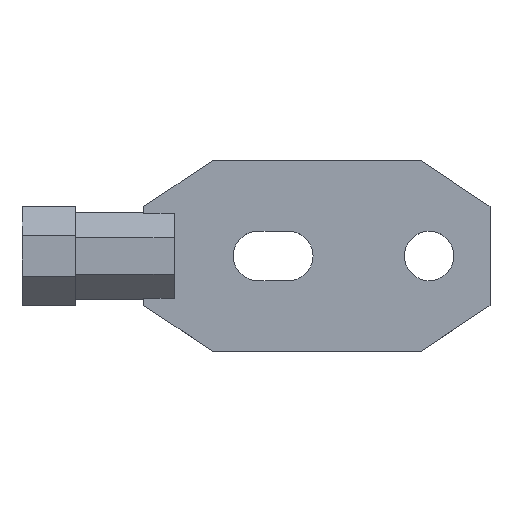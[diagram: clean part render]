
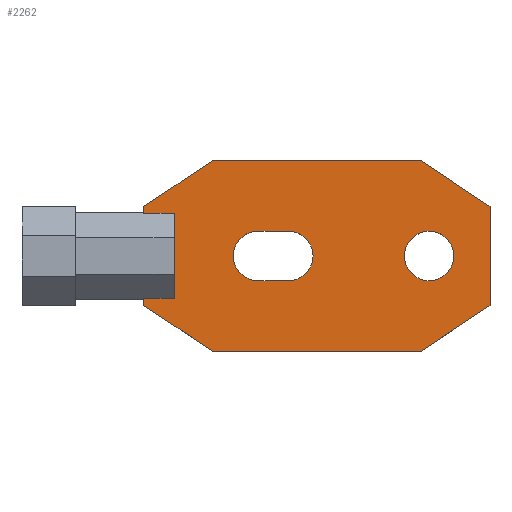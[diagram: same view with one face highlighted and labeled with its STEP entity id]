
A CAD part, top view. The second image highlights one B-rep face of the part: STEP entity #2262.
In plain terms, the highlighted planar face has unit normal (0, 0, 1) as drawn and (0, 1, 0) by its records, which use the part's own axes.
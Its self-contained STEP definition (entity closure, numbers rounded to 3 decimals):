
#1993=CARTESIAN_POINT('',(-75.,5.,0.));
#1994=DIRECTION('',(0.,-1.,0.));
#1995=DIRECTION('',(1.,0.,0.));
#1996=AXIS2_PLACEMENT_3D('',#1993,#1994,#1995);
#1998=CARTESIAN_POINT('',(-75.,5.,0.));
#1999=DIRECTION('',(0.,-1.,0.));
#2000=DIRECTION('',(-1.,0.,0.));
#2001=AXIS2_PLACEMENT_3D('',#1998,#1999,#2000);
#2003=CARTESIAN_POINT('',(-30.,5.,0.));
#2004=DIRECTION('',(0.,-1.,0.));
#2005=DIRECTION('',(0.,0.,-1.));
#2006=AXIS2_PLACEMENT_3D('',#2003,#2004,#2005);
#2008=DIRECTION('',(1.,0.,0.));
#2009=VECTOR('',#2008,8.);
#2010=CARTESIAN_POINT('',(-38.,5.,-6.5));
#2011=LINE('',#2010,#2009);
#2012=CARTESIAN_POINT('',(-38.,5.,0.));
#2013=DIRECTION('',(0.,-1.,0.));
#2014=DIRECTION('',(0.,0.,1.));
#2015=AXIS2_PLACEMENT_3D('',#2012,#2013,#2014);
#2017=DIRECTION('',(-1.,0.,0.));
#2018=VECTOR('',#2017,8.);
#2019=CARTESIAN_POINT('',(-30.,5.,6.5));
#2020=LINE('',#2019,#2018);
#2021=DIRECTION('',(0.832,0.,0.555));
#2022=VECTOR('',#2021,21.633);
#2023=CARTESIAN_POINT('',(-18.,5.,-25.));
#2024=LINE('',#2023,#2022);
#2025=DIRECTION('',(0.,0.,-1.));
#2026=VECTOR('',#2025,26.);
#2027=CARTESIAN_POINT('',(0.,5.,13.));
#2028=LINE('',#2027,#2026);
#2029=DIRECTION('',(-0.832,0.,0.555));
#2030=VECTOR('',#2029,21.633);
#2031=CARTESIAN_POINT('',(0.,5.,13.));
#2032=LINE('',#2031,#2030);
#2033=DIRECTION('',(1.,0.,0.));
#2034=VECTOR('',#2033,55.);
#2035=CARTESIAN_POINT('',(-73.,5.,25.));
#2036=LINE('',#2035,#2034);
#2037=DIRECTION('',(-0.832,0.,-0.555));
#2038=VECTOR('',#2037,21.633);
#2039=CARTESIAN_POINT('',(-73.,5.,25.));
#2040=LINE('',#2039,#2038);
#2041=DIRECTION('',(0.,0.,1.));
#2042=VECTOR('',#2041,26.);
#2043=CARTESIAN_POINT('',(-91.,5.,-13.));
#2044=LINE('',#2043,#2042);
#2045=DIRECTION('',(0.832,0.,-0.555));
#2046=VECTOR('',#2045,21.633);
#2047=CARTESIAN_POINT('',(-91.,5.,-13.));
#2048=LINE('',#2047,#2046);
#2049=DIRECTION('',(-1.,0.,0.));
#2050=VECTOR('',#2049,55.);
#2051=CARTESIAN_POINT('',(-18.,5.,-25.));
#2052=LINE('',#2051,#2050);
#2105=CARTESIAN_POINT('',(-68.5,5.,0.));
#2106=CARTESIAN_POINT('',(-81.5,5.,0.));
#2107=VERTEX_POINT('',#2105);
#2108=VERTEX_POINT('',#2106);
#2117=CARTESIAN_POINT('',(-30.,5.,-6.5));
#2118=CARTESIAN_POINT('',(-30.,5.,6.5));
#2119=VERTEX_POINT('',#2117);
#2120=VERTEX_POINT('',#2118);
#2121=CARTESIAN_POINT('',(-38.,5.,6.5));
#2122=VERTEX_POINT('',#2121);
#2123=CARTESIAN_POINT('',(-38.,5.,-6.5));
#2124=VERTEX_POINT('',#2123);
#2141=CARTESIAN_POINT('',(-18.,5.,-25.));
#2142=CARTESIAN_POINT('',(0.,5.,-13.));
#2143=VERTEX_POINT('',#2141);
#2144=VERTEX_POINT('',#2142);
#2145=CARTESIAN_POINT('',(-91.,5.,-13.));
#2146=CARTESIAN_POINT('',(-73.,5.,-25.));
#2147=VERTEX_POINT('',#2145);
#2148=VERTEX_POINT('',#2146);
#2149=CARTESIAN_POINT('',(0.,5.,13.));
#2150=CARTESIAN_POINT('',(-18.,5.,25.));
#2151=VERTEX_POINT('',#2149);
#2152=VERTEX_POINT('',#2150);
#2153=CARTESIAN_POINT('',(-73.,5.,25.));
#2154=CARTESIAN_POINT('',(-91.,5.,13.));
#2155=VERTEX_POINT('',#2153);
#2156=VERTEX_POINT('',#2154);
#2225=CARTESIAN_POINT('',(0.,5.,0.));
#2226=DIRECTION('',(0.,1.,0.));
#2227=DIRECTION('',(1.,0.,0.));
#2228=AXIS2_PLACEMENT_3D('',#2225,#2226,#2227);
#2229=PLANE('',#2228);
#2231=ORIENTED_EDGE('',*,*,#2230,.T.);
#2233=ORIENTED_EDGE('',*,*,#2232,.F.);
#2235=ORIENTED_EDGE('',*,*,#2234,.T.);
#2237=ORIENTED_EDGE('',*,*,#2236,.F.);
#2239=ORIENTED_EDGE('',*,*,#2238,.T.);
#2241=ORIENTED_EDGE('',*,*,#2240,.F.);
#2243=ORIENTED_EDGE('',*,*,#2242,.T.);
#2245=ORIENTED_EDGE('',*,*,#2244,.F.);
#2246=EDGE_LOOP('',(#2231,#2233,#2235,#2237,#2239,#2241,#2243,#2245));
#2247=FACE_OUTER_BOUND('',#2246,.F.);
#2248=ORIENTED_EDGE('',*,*,#2205,.F.);
#2249=ORIENTED_EDGE('',*,*,#2219,.F.);
#2250=EDGE_LOOP('',(#2248,#2249));
#2251=FACE_BOUND('',#2250,.F.);
#2253=ORIENTED_EDGE('',*,*,#2252,.F.);
#2255=ORIENTED_EDGE('',*,*,#2254,.F.);
#2257=ORIENTED_EDGE('',*,*,#2256,.F.);
#2259=ORIENTED_EDGE('',*,*,#2258,.F.);
#2260=EDGE_LOOP('',(#2253,#2255,#2257,#2259));
#2261=FACE_BOUND('',#2260,.F.);
#2262=ADVANCED_FACE('',(#2247,#2251,#2261),#2229,.T.);
#1997=CIRCLE('',#1996,6.5);
#2002=CIRCLE('',#2001,6.5);
#2007=CIRCLE('',#2006,6.5);
#2016=CIRCLE('',#2015,6.5);
#2205=EDGE_CURVE('',#2107,#2108,#1997,.T.);
#2219=EDGE_CURVE('',#2108,#2107,#2002,.T.);
#2230=EDGE_CURVE('',#2143,#2144,#2024,.T.);
#2232=EDGE_CURVE('',#2151,#2144,#2028,.T.);
#2234=EDGE_CURVE('',#2151,#2152,#2032,.T.);
#2236=EDGE_CURVE('',#2155,#2152,#2036,.T.);
#2238=EDGE_CURVE('',#2155,#2156,#2040,.T.);
#2240=EDGE_CURVE('',#2147,#2156,#2044,.T.);
#2242=EDGE_CURVE('',#2147,#2148,#2048,.T.);
#2244=EDGE_CURVE('',#2143,#2148,#2052,.T.);
#2252=EDGE_CURVE('',#2119,#2120,#2007,.T.);
#2254=EDGE_CURVE('',#2124,#2119,#2011,.T.);
#2256=EDGE_CURVE('',#2122,#2124,#2016,.T.);
#2258=EDGE_CURVE('',#2120,#2122,#2020,.T.);
